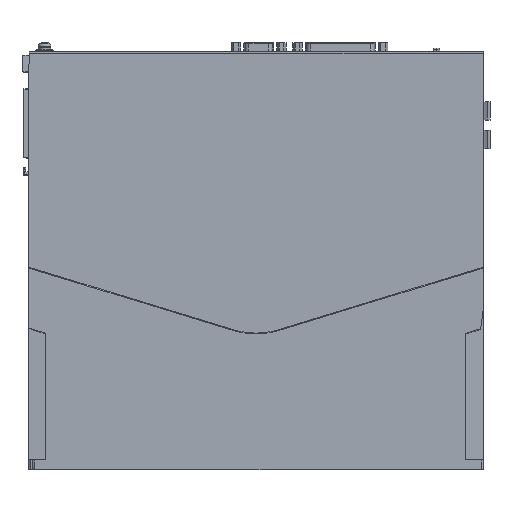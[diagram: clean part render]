
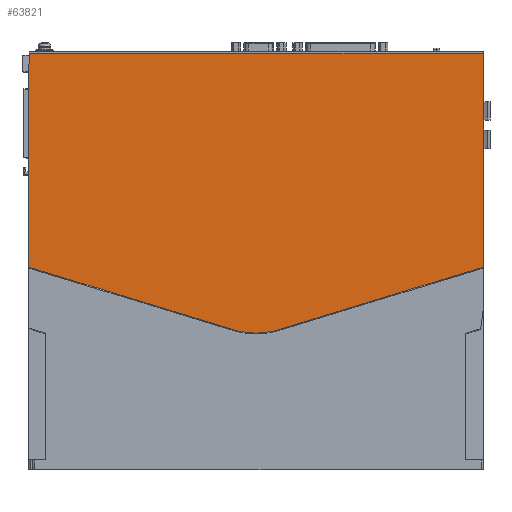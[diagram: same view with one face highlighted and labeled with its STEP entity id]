
A CAD part, left-side view. The second image highlights one B-rep face of the part: STEP entity #63821.
In plain terms, the highlighted planar face has unit normal (-1, 0, 0).
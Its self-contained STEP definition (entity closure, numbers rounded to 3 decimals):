
#14139=DIRECTION('',(0.,0.,1.));
#14140=VECTOR('',#14139,117.538);
#14141=CARTESIAN_POINT('',(-44.5,-125.,105.962));
#14142=LINE('',#14141,#14140);
#16347=DIRECTION('',(0.,0.,-1.));
#16348=VECTOR('',#16347,107.138);
#16349=CARTESIAN_POINT('',(-44.5,125.,213.1));
#16350=LINE('',#16349,#16348);
#16788=DIRECTION('',(0.,-0.035,0.999));
#16789=VECTOR('',#16788,10.406);
#16790=CARTESIAN_POINT('',(-44.5,125.,213.1));
#16791=LINE('',#16790,#16789);
#16792=DIRECTION('',(0.,-1.,0.));
#16793=VECTOR('',#16792,249.636);
#16794=CARTESIAN_POINT('',(-44.5,124.636,
223.5));
#16795=LINE('',#16794,#16793);
#16796=DIRECTION('',(0.,0.956,-0.292));
#16797=VECTOR('',#16796,117.871);
#16798=CARTESIAN_POINT('',(-44.5,-125.,105.962));
#16799=LINE('',#16798,#16797);
#16800=CARTESIAN_POINT('',(-44.5,0.,111.665));
#16801=DIRECTION('',(1.,0.,0.));
#16802=DIRECTION('',(0.,-0.292,-0.956));
#16803=AXIS2_PLACEMENT_3D('',#16800,#16801,#16802);
#16805=CARTESIAN_POINT('',(-44.5,0.,
111.665));
#16806=DIRECTION('',(1.,0.,0.));
#16807=DIRECTION('',(0.,0.,-1.));
#16808=AXIS2_PLACEMENT_3D('',#16805,#16806,#16807);
#16810=DIRECTION('',(0.,0.956,0.292));
#16811=VECTOR('',#16810,117.871);
#16812=CARTESIAN_POINT('',(-44.5,12.28,
71.5));
#16813=LINE('',#16812,#16811);
#31451=CARTESIAN_POINT('',(-44.5,-125.,105.962));
#31452=VERTEX_POINT('',#31451);
#31453=CARTESIAN_POINT('',(-44.5,-125.,223.5));
#31454=VERTEX_POINT('',#31453);
#32562=CARTESIAN_POINT('',(-44.5,124.636,
223.5));
#32563=VERTEX_POINT('',#32562);
#32564=CARTESIAN_POINT('',(-44.5,125.,213.1));
#32565=VERTEX_POINT('',#32564);
#33209=CARTESIAN_POINT('',(-44.5,-12.28,
71.5));
#33210=VERTEX_POINT('',#33209);
#33211=CARTESIAN_POINT('',(-44.5,0.,69.665));
#33212=VERTEX_POINT('',#33211);
#33213=CARTESIAN_POINT('',(-44.5,12.28,
71.5));
#33214=VERTEX_POINT('',#33213);
#33215=CARTESIAN_POINT('',(-44.5,125.,105.962));
#33216=VERTEX_POINT('',#33215);
#63806=CARTESIAN_POINT('',(-44.5,0.,146.582));
#63807=DIRECTION('',(1.,0.,0.));
#63808=DIRECTION('',(0.,-1.,0.));
#63809=AXIS2_PLACEMENT_3D('',#63806,#63807,#63808);
#63810=PLANE('',#63809);
#63811=ORIENTED_EDGE('',*,*,#59785,.T.);
#63812=ORIENTED_EDGE('',*,*,#59908,.T.);
#63813=ORIENTED_EDGE('',*,*,#60125,.F.);
#63814=ORIENTED_EDGE('',*,*,#63786,.T.);
#63815=ORIENTED_EDGE('',*,*,#63764,.T.);
#63816=ORIENTED_EDGE('',*,*,#63762,.T.);
#63817=ORIENTED_EDGE('',*,*,#63735,.T.);
#63818=ORIENTED_EDGE('',*,*,#62979,.F.);
#63819=EDGE_LOOP('',(#63811,#63812,#63813,#63814,#63815,#63816,#63817,#63818));
#63820=FACE_OUTER_BOUND('',#63819,.F.);
#16804=CIRCLE('',#16803,42.);
#16809=CIRCLE('',#16808,42.);
#59785=EDGE_CURVE('',#32565,#32563,#16791,.T.);
#59908=EDGE_CURVE('',#32563,#31454,#16795,.T.);
#60125=EDGE_CURVE('',#31452,#31454,#14142,.T.);
#62979=EDGE_CURVE('',#32565,#33216,#16350,.T.);
#63735=EDGE_CURVE('',#33214,#33216,#16813,.T.);
#63762=EDGE_CURVE('',#33212,#33214,#16809,.T.);
#63764=EDGE_CURVE('',#33210,#33212,#16804,.T.);
#63786=EDGE_CURVE('',#31452,#33210,#16799,.T.);
#63821=ADVANCED_FACE('',(#63820),#63810,.F.);
